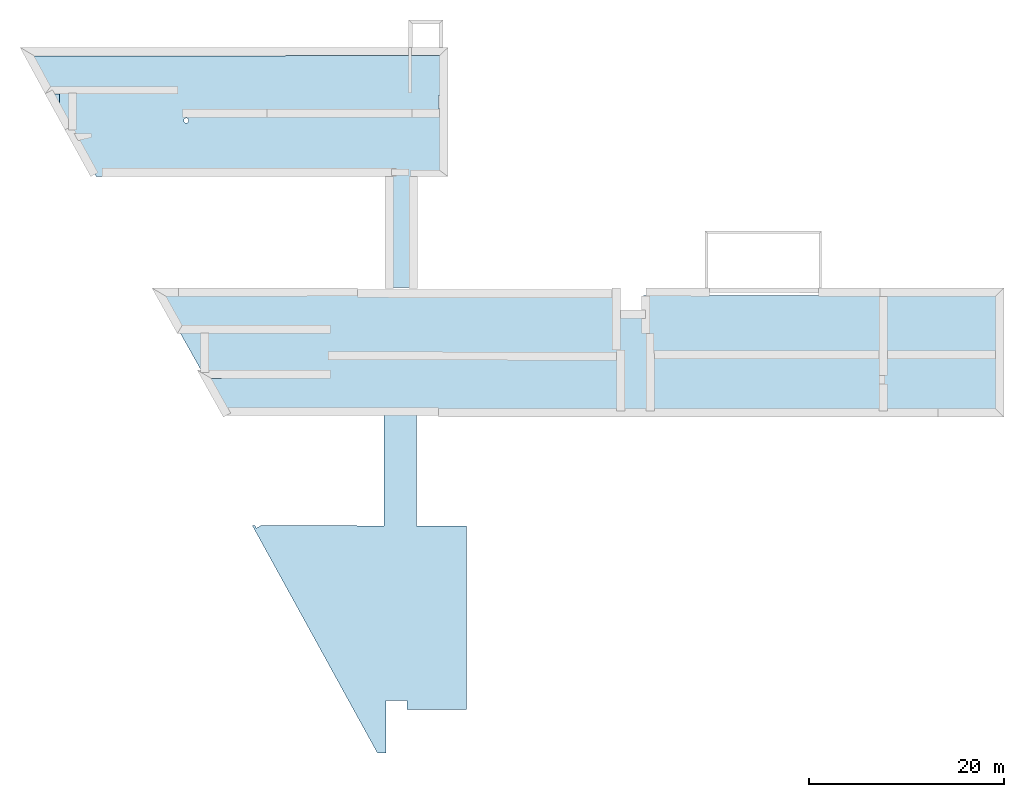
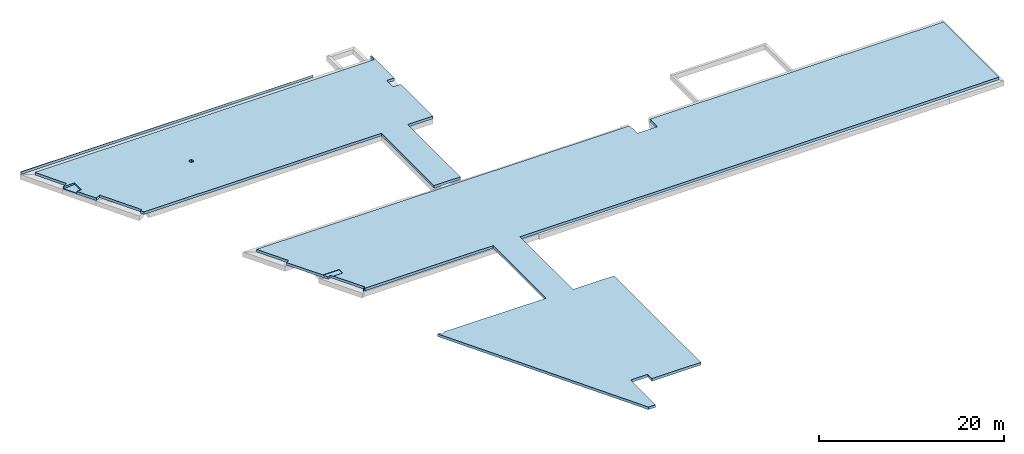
# One storey, part 2 of 3: 1 slab.
"""IFC2X3 building model written with IfcOpenShell, lengths in millimetres."""

from ifc_helpers import new_model, entity, si_unit, converted_unit, derived_unit, money_unit, direction, frame, origin_with_axes, place, context, subcontext, project, spatial, polyline, outline, extrude, boolean, faceted_brep, material, layer, layer_set, layer_usage, type_object, element, save


model = new_model("IFC2X3")

# Units and contexts
model_context = context("Model", 3, precision=1e-05, world=origin_with_axes(), true_north=direction((0.0, 1.0)))
body_context = subcontext(model_context, "Body", "Model", "MODEL_VIEW")
ifc_project = project(units=[si_unit("LENGTHUNIT", "METRE", prefix="MILLI"), si_unit("AREAUNIT", "SQUARE_METRE"), si_unit("VOLUMEUNIT", "CUBIC_METRE"), converted_unit("PLANEANGLEUNIT", "DEGREE", entity("IfcPlaneAngleMeasure", 0.0174532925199), si_unit("PLANEANGLEUNIT", "RADIAN"), dimensions=[0, 0, 0, 0, 0, 0, 0]), si_unit("SOLIDANGLEUNIT", "STERADIAN"), money_unit("EUR"), converted_unit("TIMEUNIT", "Year", entity("IfcTimeMeasure", 31556926.0), si_unit("TIMEUNIT", "SECOND"), dimensions=[0, 0, 1, 0, 0, 0, 0]), si_unit("MASSUNIT", "GRAM", prefix="KILO"), si_unit("THERMODYNAMICTEMPERATUREUNIT", "DEGREE_CELSIUS"), si_unit("LUMINOUSINTENSITYUNIT", "LUMEN"), si_unit("ENERGYUNIT", "JOULE", prefix="MEGA"), derived_unit("THERMALCONDUCTANCEUNIT", [(si_unit("POWERUNIT", "WATT"), 1), (si_unit("LENGTHUNIT", "METRE"), -1), (si_unit("THERMODYNAMICTEMPERATUREUNIT", "KELVIN"), -1)]), derived_unit("SPECIFICHEATCAPACITYUNIT", [(si_unit("ENERGYUNIT", "JOULE"), 1), (si_unit("MASSUNIT", "GRAM", prefix="KILO"), -1), (si_unit("THERMODYNAMICTEMPERATUREUNIT", "KELVIN"), -1)]), derived_unit("MASSDENSITYUNIT", [(si_unit("MASSUNIT", "GRAM", prefix="KILO"), 1), (si_unit("VOLUMEUNIT", "CUBIC_METRE"), -1)])], contexts=[model_context])

# Site, building, storey
site_placement = place(None, origin_with_axes())
site = spatial("IfcSite", under=ifc_project, at=site_placement, Name="Site", CompositionType="ELEMENT")
building_placement = place(site_placement, origin_with_axes())
building = spatial("IfcBuilding", under=site, at=building_placement, Name="Building", CompositionType="ELEMENT")
storey_placement = place(building_placement, frame((0.0, 0.0, -1000.0), z_axis=(0.0, 0.0, 1.0), x_axis=(1.0, 0.0, 0.0)))
storey = spatial("IfcBuildingStorey", under=building, at=storey_placement, Name="VUNDAMENT", CompositionType="ELEMENT", Elevation=-1000.0)

# Slab
ifc_material = material(Name="Betoon - Ol.Olev konstruktsioon")
ifc_layer = layer(ifc_material, 350.0, ventilated="UNKNOWN")
ifc_layer_set = layer_set([ifc_layer], Name="Betoon - Ol.Olev konstruktsioon 350")
ifc_layer_usage = layer_usage(ifc_layer_set, "AXIS3", "NEGATIVE", 350.0)
slab_type = type_object("IfcSlabType", Name="P-1", PredefinedType="FLOOR")
slab_placement = place(storey_placement, frame((-96.0018453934, 72042.3680183, 1000.0), z_axis=(0.0, 0.0, 1.0), x_axis=(1.0, 0.0, 0.0)))
solid = boolean("DIFFERENCE", boolean("DIFFERENCE", boolean("DIFFERENCE", boolean("DIFFERENCE", boolean("DIFFERENCE", boolean("DIFFERENCE", boolean("DIFFERENCE", boolean("DIFFERENCE", extrude(outline(polyline([(0.0, 0.0), (7243.98887011, -13244.6462884), (37383.9114701, -13243.4361576), (37383.9114701, -24794.2469724), (13851.7585188, -24789.1621293), (21067.7657448, -37633.4125185), (37265.2144085, -37607.1274914), (37261.3475807, -49043.9878812), (23760.3818231, -49007.8173688), (36580.3960318, -72318.274556), (37480.3755565, -72318.274556), (37480.3755565, -66957.9471208), (39597.6225621, -66959.312293), (39597.6225621, -67870.0199502), (45704.6013448, -67872.5004865), (45715.0488742, -49066.6361212), (40609.4246654, -49054.2799662), (40609.4246654, -37607.1274914), (61280.2664942, -37607.1274914), (100447.404102, -37450.7067244), (100449.350358, -24810.7034946), (63860.4734147, -24810.7034946), (63847.0927324, -27063.5176461), (61337.8553202, -27061.9759703), (61311.7152709, -24807.3787987), (40671.7439436, -25004.7065046), (40672.4476038, -13242.9919405), (43806.6516329, -13242.5470336), (43809.8377036, -6272.33966234), (42858.8503577, -6272.33966234), (42859.6707806, -4937.01540054), (43809.4597748, -4935.66858306), (43809.4445871, -35.6118984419), (0.0, 0.0)])), frame((0.0, 0.0, -350.0), z_axis=(0.0, 0.0, 1.0), x_axis=(1.0, 0.0, 0.0)), (0.0, 0.0, 1.0), 350.0), faceted_brep([(3426.89751127, -6265.61501091, 0.0), (4023.7415233, -6265.61501082, 0.0), (4023.7415233, -4765.61501268, 0.0), (2606.49181232, -4765.61501222, 0.0), (3426.89751127, -6265.61501091, -236.110317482), (4023.7415233, -6265.61501082, -200.299676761), (4023.7415233, -4765.61501268, -200.299676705), (2606.49181232, -4765.61501222, -285.334659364)], [[[0, 1, 2, 3]], [[1, 0, 4, 5]], [[2, 1, 5, 6]], [[3, 2, 6, 7]], [[4, 0, 3, 7]], [[4, 7, 6, 5]]])), faceted_brep([(7768.11053413, -13244.6252447, -350.0), (7768.11053413, -13244.6252447, 0.0), (7243.98887011, -13244.6462884, 0.0), (7243.98887011, -13244.6462884, -350.0), (7548.54189697, -12845.6364365, 0.0), (7548.54189697, -12845.6364365, -350.0), (5207.56953155, -8096.06888322, 0.0), (4608.45043332, -8425.92348241, 0.0), (7548.61746226, -12845.5948328, 0.0), (7548.70074659, -12845.5489793, 0.0), (7758.78913667, -12729.8814569, 0.0), (4608.45043332, -8425.92348241, -350.0), (5207.56953155, -8096.06888322, -350.0), (7758.78913667, -12729.8814569, -350.0)], [[[0, 1, 2, 3]], [[4, 1, 0, 5]], [[6, 7, 2, 1, 4, 8, 9, 10]], [[7, 11, 3, 2]], [[5, 0, 3, 11, 12, 13]], [[10, 9, 8, 4, 5, 13]], [[7, 6, 12, 11]], [[6, 10, 13, 12]]])), faceted_brep([(17223.9222069, -7420.54363571, -350.0), (17235.2009899, -7462.63662712, -350.0), (17238.9990517, -7506.04867154, -350.0), (17235.2009899, -7549.46071595, -350.0), (17223.9222069, -7591.55370737, -350.0), (17205.5054026, -7631.04867154, -350.0), (17180.5101625, -7666.74557396, -350.0), (17149.6959541, -7697.55978232, -350.0), (17113.9990517, -7722.55502248, -350.0), (17074.5040875, -7740.97182673, -350.0), (17032.4110961, -7752.25060979, -350.0), (16988.9990517, -7756.04867154, -350.0), (16945.5870073, -7752.25060979, -350.0), (16903.4940158, -7740.97182673, -350.0), (16863.9990517, -7722.55502248, -350.0), (16828.3021492, -7697.55978232, -350.0), (16797.4879409, -7666.74557396, -350.0), (16772.4927007, -7631.04867154, -350.0), (16754.0758965, -7591.55370737, -350.0), (16742.7971134, -7549.46071595, -350.0), (16738.9990517, -7506.04867154, -350.0), (16742.7971134, -7462.63662712, -350.0), (16754.0758965, -7420.54363571, -350.0), (16772.4927007, -7381.04867154, -350.0), (16797.4879409, -7345.35176912, -350.0), (16828.3021492, -7314.53756076, -350.0), (16863.9990517, -7289.54232059, -350.0), (16903.4940158, -7271.12551634, -350.0), (16945.5870073, -7259.84673328, -350.0), (16988.9990517, -7256.04867154, -350.0), (17032.4110961, -7259.84673328, -350.0), (17074.5040875, -7271.12551634, -350.0), (17113.9990517, -7289.54232059, -350.0), (17149.6959541, -7314.53756076, -350.0), (17180.5101625, -7345.35176912, -350.0), (17205.5054026, -7381.04867154, -350.0), (17223.9222069, -7420.54363571, 0.0), (17235.2009899, -7462.63662712, 0.0), (17238.9990517, -7506.04867154, 0.0), (17235.2009899, -7549.46071595, 0.0), (17223.9222069, -7591.55370737, 0.0), (17205.5054026, -7631.04867154, 0.0), (17180.5101625, -7666.74557396, 0.0), (17149.6959541, -7697.55978232, 0.0), (17113.9990517, -7722.55502248, 0.0), (17074.5040875, -7740.97182673, 0.0), (17032.4110961, -7752.25060979, 0.0), (16988.9990517, -7756.04867154, 0.0), (16945.5870073, -7752.25060979, 0.0), (16903.4940158, -7740.97182673, 0.0), (16863.9990517, -7722.55502248, 0.0), (16828.3021492, -7697.55978232, 0.0), (16797.4879409, -7666.74557396, 0.0), (16772.4927007, -7631.04867154, 0.0), (16754.0758965, -7591.55370737, 0.0), (16742.7971134, -7549.46071595, 0.0), (16738.9990517, -7506.04867154, 0.0), (16742.7971134, -7462.63662712, 0.0), (16754.0758965, -7420.54363571, 0.0), (16772.4927007, -7381.04867154, 0.0), (16797.4879409, -7345.35176912, 0.0), (16828.3021492, -7314.53756076, 0.0), (16863.9990517, -7289.54232059, 0.0), (16903.4940158, -7271.12551634, 0.0), (16945.5870073, -7259.84673328, 0.0), (16988.9990517, -7256.04867154, 0.0), (17032.4110961, -7259.84673328, 0.0), (17074.5040875, -7271.12551634, 0.0), (17113.9990517, -7289.54232059, 0.0), (17149.6959541, -7314.53756076, 0.0), (17180.5101625, -7345.35176912, 0.0), (17205.5054026, -7381.04867154, 0.0)], [[[0, 1, 2, 3, 4, 5, 6, 7, 8, 9, 10, 11, 12, 13, 14, 15, 16, 17, 18, 19, 20, 21, 22, 23, 24, 25, 26, 27, 28, 29, 30, 31, 32, 33, 34, 35]], [[36, 37, 1, 0]], [[37, 38, 2, 1]], [[38, 39, 3, 2]], [[39, 40, 4, 3]], [[40, 41, 5, 4]], [[41, 42, 6, 5]], [[42, 43, 7, 6]], [[43, 44, 8, 7]], [[44, 45, 9, 8]], [[45, 46, 10, 9]], [[46, 47, 11, 10]], [[47, 48, 12, 11]], [[48, 49, 13, 12]], [[49, 50, 14, 13]], [[50, 51, 15, 14]], [[51, 52, 16, 15]], [[52, 53, 17, 16]], [[53, 54, 18, 17]], [[54, 55, 19, 18]], [[55, 56, 20, 19]], [[56, 57, 21, 20]], [[57, 58, 22, 21]], [[58, 59, 23, 22]], [[59, 60, 24, 23]], [[60, 61, 25, 24]], [[61, 62, 26, 25]], [[62, 63, 27, 26]], [[63, 64, 28, 27]], [[64, 65, 29, 28]], [[65, 66, 30, 29]], [[66, 67, 31, 30]], [[67, 68, 32, 31]], [[68, 69, 33, 32]], [[69, 70, 34, 33]], [[70, 71, 35, 34]], [[71, 36, 0, 35]], [[40, 39, 38, 37, 36, 71, 70, 69, 68, 67, 66, 65, 64, 63, 62, 61, 60, 59, 58, 57, 56, 55, 54, 53, 52, 51, 50, 49, 48, 47, 46, 45, 44, 43, 42, 41]]])), faceted_brep([(21256.1548499, -37633.1068029, -350.0), (21256.1548499, -37633.1068029, 0.0), (21067.7657448, -37633.4125185, 0.0), (21067.7657448, -37633.4125185, -350.0), (21206.619121, -37543.4582014, 0.0), (21206.619121, -37543.4582014, -350.0), (21062.0936524, -37623.3163846, 0.0), (21062.0936524, -37623.3163846, -350.0)], [[[0, 1, 2, 3]], [[4, 1, 0, 5]], [[4, 6, 2, 1]], [[6, 7, 3, 2]], [[5, 0, 3, 7]], [[6, 4, 5, 7]]])), faceted_brep([(36473.371272, -29.6485382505, -350.0), (36473.371272, -29.6485382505, 0.0), (43663.5025588, -35.4932648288, 0.0), (43663.5025588, -35.4932648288, -350.0), (40.9491993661, -74.8700296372, 0.0), (40.9491993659, -74.8700296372, -350.0), (2591.07890054, -4737.43460383, 0.0), (3189.51661648, -4412.55981174, 0.0), (1279.02910056, -893.333903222, 0.0), (43664.5020449, -840.7232287, 0.0), (43664.5020449, -840.7232287, -350.0), (1279.02910056, -893.333903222, -350.0), (3189.51661648, -4412.55981174, -350.0), (2591.07890054, -4737.43460383, -350.0)], [[[0, 1, 2, 3]], [[4, 1, 0, 5]], [[1, 4, 6, 7, 8, 9, 2]], [[2, 9, 10, 3]], [[5, 0, 3, 10, 11, 12, 13]], [[4, 5, 13, 6]], [[7, 6, 13, 12]], [[8, 7, 12, 11]], [[9, 8, 11, 10]]])), faceted_brep([(20595.6480004, -33202.1867746, 0.0), (18579.6998003, -33204.7387415, 0.0), (21053.0053635, -37607.1395358, 0.0), (21379.7724287, -37425.015669, 0.0), (19439.4312473, -33943.6510097, 0.0), (20596.5847576, -33942.1861817, 0.0), (20595.6480004, -33202.1867746, -39.6592143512), (19027.282156, -33204.1721519, -39.6592143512), (18579.6998003, -33204.7387415, -39.6592143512), (21053.0053635, -37607.1395358, -350.0), (18899.4317195, -33773.8508141, -39.6592143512), (18899.4317195, -33773.8508141, -350.0), (21379.7724287, -37425.015669, -350.0), (19239.2361761, -33584.4605475, -350.0), (19239.2361761, -33584.4605475, -39.6592143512), (19439.4312473, -33943.6510097, -39.6592143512), (20596.5847576, -33942.1861817, -39.6592143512)], [[[0, 1, 2, 3, 4, 5]], [[1, 0, 6, 7, 8]], [[9, 2, 1, 8, 10, 11]], [[3, 2, 9, 12]], [[4, 3, 12, 13, 14, 15]], [[5, 4, 15, 16]], [[0, 5, 16, 6]], [[10, 8, 7, 6, 16, 15, 14]], [[13, 11, 10, 14]], [[12, 9, 11, 13]]])), faceted_brep([(24031.9339429, -49008.5448856, 0.0), (24181.5502727, -49283.2106859, 0.0), (24620.6333214, -49044.0327682, 0.0), (24602.1344448, -49010.0725129, 0.0), (24031.9339429, -49008.5448856, -350.0), (24181.5502727, -49283.2106859, -350.0), (24620.6333214, -49044.0327682, -350.0), (24602.1344448, -49010.0725129, -350.0)], [[[0, 1, 2, 3]], [[1, 0, 4, 5]], [[2, 1, 5, 6]], [[3, 2, 6, 7]], [[4, 0, 3, 7]], [[5, 4, 7, 6]]])), faceted_brep([(16727.119707, -28979.642074, 0.0), (14746.4402961, -25419.3847031, 0.0), (61318.9452532, -25430.969729, 0.0), (61311.7152709, -24807.3787987, 0.0), (40671.7439436, -25004.7065046, 0.0), (40671.7666102, -24625.8336675, 0.0), (37383.9114701, -24625.0158054, 0.0), (37383.9114701, -24794.2469724, 0.0), (13851.7585188, -24789.1621293, 0.0), (16330.0954916, -29200.518715, 0.0), (16727.119707, -28979.642074, -350.0), (14746.4402961, -25419.3847031, -350.0), (61318.9452532, -25430.969729, -350.0), (61311.7152709, -24807.3787987, -350.0), (40671.7439436, -25004.7065046, -350.0), (40671.7666102, -24625.8336675, -350.0), (37383.9114701, -24625.0158054, -350.0), (37383.9114701, -24794.2469724, -350.0), (13851.7585188, -24789.1621293, -350.0), (16330.0936923, -29200.5154807, -350.0)], [[[0, 1, 2, 3, 4, 5, 6, 7, 8, 9]], [[1, 0, 10, 11]], [[12, 2, 1, 11]], [[2, 12, 13, 3]], [[3, 13, 14, 4]], [[15, 5, 4, 14]], [[6, 5, 15, 16]], [[6, 16, 17, 7]], [[7, 17, 18, 8]], [[19, 9, 8, 18]], [[0, 9, 19, 10]], [[10, 19, 18, 17, 16, 15, 14, 13, 12, 11]]]))
element("IfcSlab", 1, at=slab_placement, inside=storey, type_object=slab_type, material=ifc_layer_usage, Name="Betoon - Ol.Olev konstruktsioon", PredefinedType="FLOOR", context=body_context, shape_type="CSG", body=[
    boolean("DIFFERENCE", solid, faceted_brep([(63856.7855683, -25431.601023, 0.0), (100449.253353, -25440.70349, 0.0), (100449.350358, -24810.7034946, 0.0), (63860.4734147, -24810.7034946, 0.0), (100449.253353, -25440.70349, -350.0), (63856.7855683, -25431.6010231, -350.0), (100449.350358, -24810.7034946, -350.0), (63860.4734147, -24810.7034946, -350.0)], [[[0, 1, 2, 3]], [[4, 1, 0, 5]], [[1, 4, 6, 2]], [[2, 6, 7, 3]], [[5, 0, 3, 7]], [[4, 5, 7, 6]]])),
])

save(model, "model.ifc")
